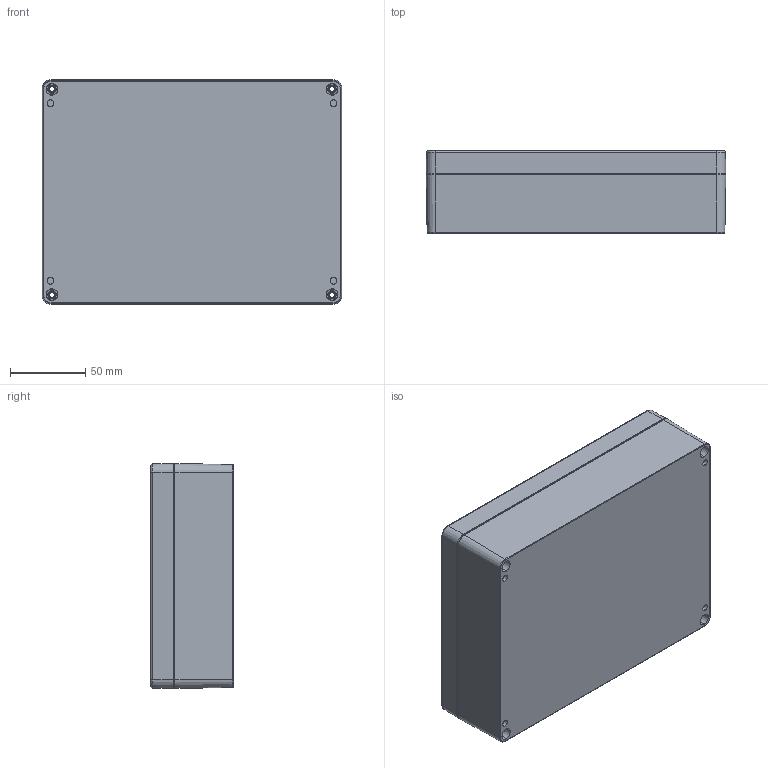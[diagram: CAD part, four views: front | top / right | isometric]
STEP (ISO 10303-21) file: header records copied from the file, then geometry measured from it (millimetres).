
FILE_DESCRIPTION (( 'STEP AP203' ), '1' );
FILE_NAME ('PE252.STEP', '2021-02-06T06:42:35', ( '' ), ( '' ), 'SwSTEP 2.0', 'SolidWorks 2020', '' );
FILE_SCHEMA (( 'CONFIG_CONTROL_DESIGN' ));
Length unit declared in the file: millimetre
Products named in the file (4): PE252
Assembly tree (3 placements, depth 2):
  PE252
    PE252
    PE252
    PE252
Bounding box: 199.7 x 54.9 x 149.9 mm (x, y, z)
Volume: 351490.5 mm3; surface area: 263193.4 mm2
Topology: 11 solids, 11 shells, 1399 faces, 3654 edges, 2372 vertices
Faces by surface type: bspline 440, cylinder 380, plane 305, cone 266, torus 8
Entity records: 48194 total; most frequent: CARTESIAN_POINT 15663, ORIENTED_EDGE 7308, DIRECTION 5928, EDGE_CURVE 3654, VERTEX_POINT 2372, AXIS2_PLACEMENT_3D 2225, EDGE_LOOP 1566, LINE 1478
